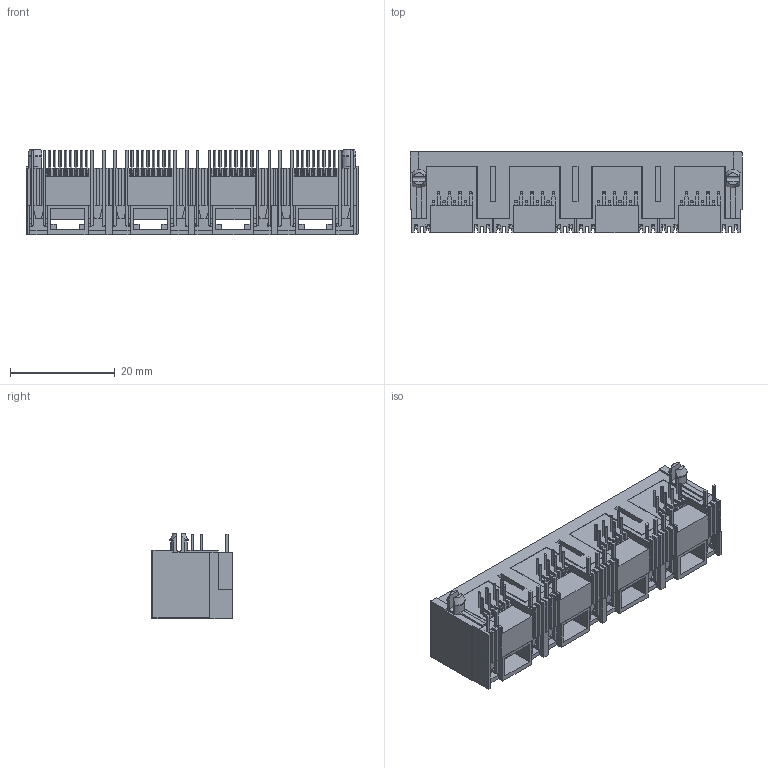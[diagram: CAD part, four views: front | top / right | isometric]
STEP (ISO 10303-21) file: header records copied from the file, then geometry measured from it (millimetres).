
FILE_DESCRIPTION((''),'2;1');
FILE_NAME('DGKYD561488JB1A3DY1027','2022-06-02T16:38:38',('Administrator'),(''),'CREO PARAMETRIC BY PTC INC, 2018400','CREO PARAMETRIC BY PTC INC, 2018400','');
FILE_SCHEMA(('CONFIG_CONTROL_DESIGN'));
Products named in the file (1): DGKYD561488JB1A3DY1027
Bounding box: 63.3 x 15.5 x 16.35 mm (x, y, z)
Volume: 4953.3 mm3; surface area: 13348.2 mm2
Topology: 1 solids, 5 shells, 2315 faces, 6828 edges, 4418 vertices
Faces by surface type: plane 1717, cylinder 464, torus 128, cone 4, sphere 2
Entity records: 77761 total; most frequent: CARTESIAN_POINT 15458, ORIENTED_EDGE 13656, DIRECTION 12260, EDGE_CURVE 6828, VECTOR 5452, LINE 5452, VERTEX_POINT 4418, AXIS2_PLACEMENT_3D 3404
